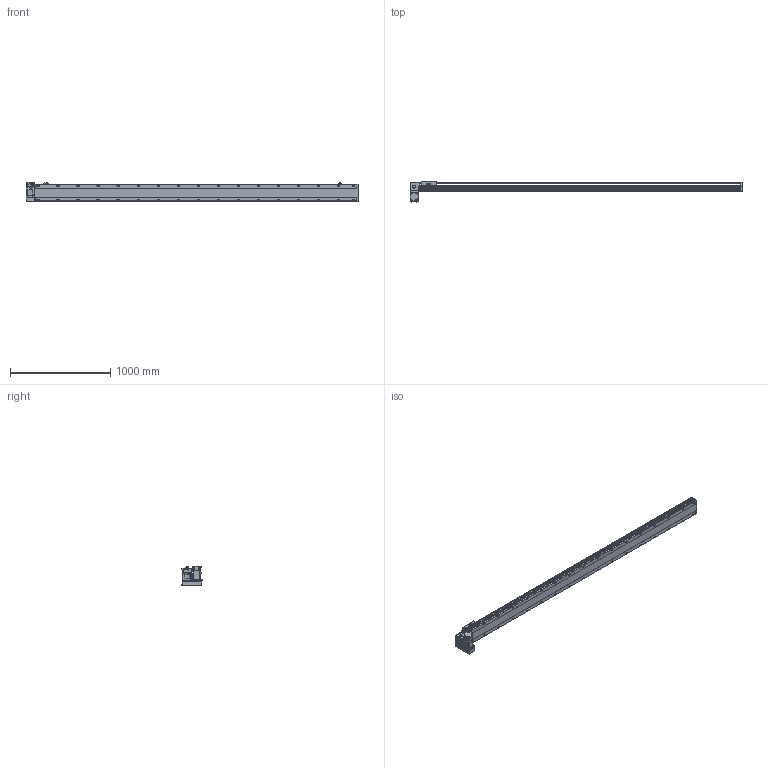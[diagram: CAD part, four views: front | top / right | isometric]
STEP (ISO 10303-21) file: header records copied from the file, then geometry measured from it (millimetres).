
FILE_DESCRIPTION(/* description */ ('STEP AP214'),/* implementation_level */ '2;1');
FILE_NAME(/* name */ 'PBS170-P40-S2950-LD-T75-C1-N(0)',/* time_stamp */ '2022-06-07T09:56:55+02:00',/* author */ ('License CC BY-ND 4.0'),/* organization */ ('CADENAS'),/* preprocessor_version */ 'ST-DEVELOPER v18.102',/* originating_system */ 'PARTsolutions',/* authorisation */ ' ');
FILE_SCHEMA (('AUTOMOTIVE_DESIGN {1 0 10303 214 3 1 1}'));
Length unit declared in the file: millimetre
Products named in the file (7): PBS170-P40-S2950-LD-T75-C1-N(0); PBS170_sensor; PBS170_plant; PBS170_sliser; T75-p1; PBS170T-LD_motors; PBS170-S2950()_body
Assembly tree (8 placements, depth 2):
  PBS170-P40-S2950-LD-T75-C1-N(0)
    PBS170_sensor  x3
    PBS170_plant
    PBS170_sliser
    T75-p1
    PBS170T-LD_motors
    PBS170-S2950()_body
Bounding box: 3313 x 201 x 197.3 mm (x, y, z)
Volume: 24885337.9 mm3; surface area: 3116293.2 mm2
Topology: 8 solids, 8 shells, 1226 faces, 3235 edges, 2108 vertices
Faces by surface type: plane 741, cylinder 411, cone 64, sphere 8, torus 2
Full cylindrical faces by diameter (mm): 3.242 x4, 4 x2, 4.4 x4, 4.5 x6, 4.917 x4, 6 x9, 6.647 x42, 7 x2, 7.5 x4, 8 x8, 8.5 x34, 10 x4, 10.5 x34, 11 x2, 30 x2, 40 x1, 70 x1
Entity records: 35240 total; most frequent: CARTESIAN_POINT 6721, DIRECTION 5930, ORIENTED_EDGE 5568, EDGE_CURVE 2784, AXIS2_PLACEMENT_3D 2107, VERTEX_POINT 1946, LINE 1716, VECTOR 1716
